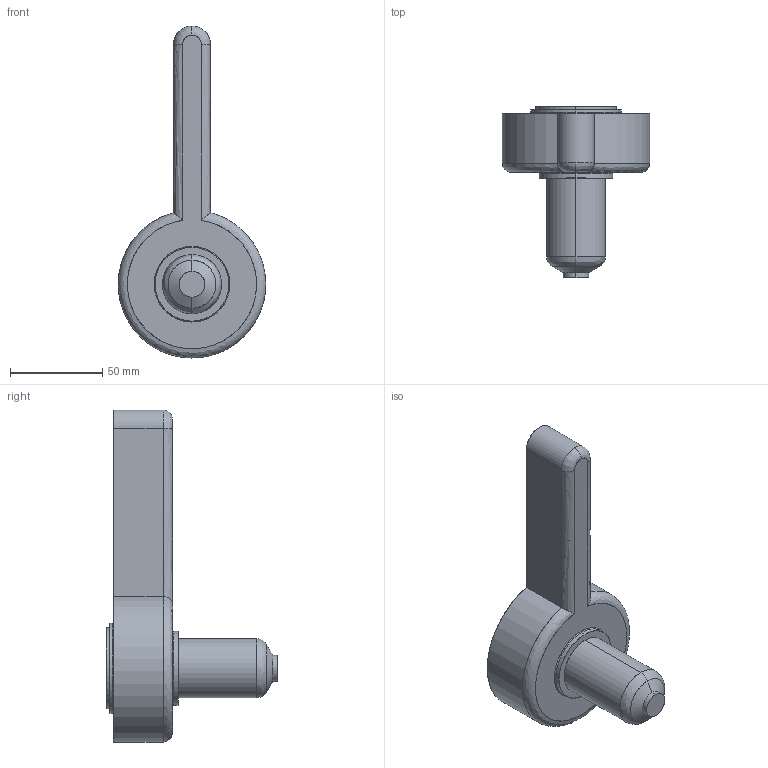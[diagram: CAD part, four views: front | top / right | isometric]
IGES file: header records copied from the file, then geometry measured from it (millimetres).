
Start section: SolidWorks IGES file using analytic representation for surfaces
Global section: file name: C:\Documents and Settings\ws-20\Desktop\TEM\Sede UGBE4501-S-A C-54 L-91 P-0.IGS; native system: SolidWorks 2012; preprocessor: SolidWorks 2012; author: ws-20; date: 120412.155636; units: millimetre
Bounding box: 79.97 x 93.14 x 180 mm (x, y, z)
Surface area: 32933.8 mm2 (no closed solid volume)
Topology: 0 solids, 0 shells, 34 faces, 788 edges, 788 vertices
Faces by surface type: revolution 21, bspline 13
